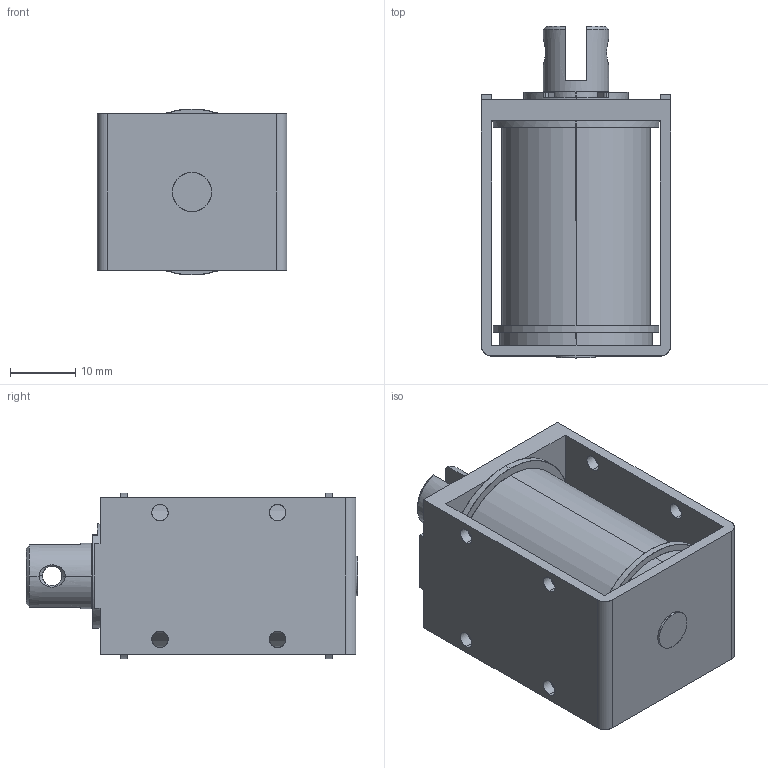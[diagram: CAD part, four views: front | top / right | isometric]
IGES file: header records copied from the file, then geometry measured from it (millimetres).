
Start section: SolidWorks IGES file using analytic representation for surfaces
Global section: file name: L:\カタログ\web用3Dデータ\CE1040\3D_CE1040\w_ce1040.IGS; native system: SolidWorks 2014; preprocessor: SolidWorks 2014; author: jiba; date: 140724.113832; units: millimetre
Bounding box: 29 x 50.8 x 25.4 mm (x, y, z)
Surface area: 11167.8 mm2 (no closed solid volume)
Topology: 0 solids, 0 shells, 128 faces, 2311 edges, 2311 vertices
Faces by surface type: revolution 75, bspline 53
